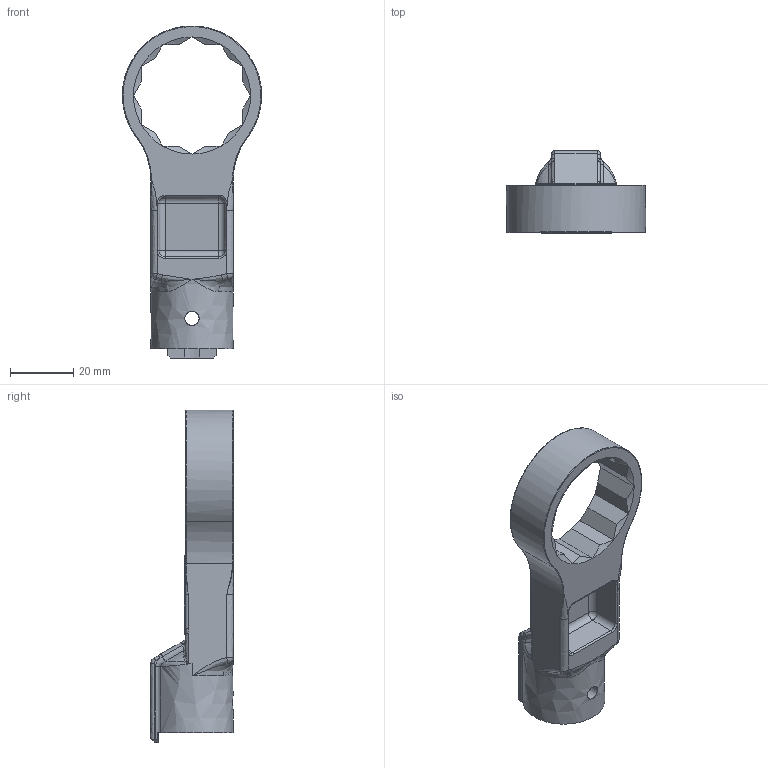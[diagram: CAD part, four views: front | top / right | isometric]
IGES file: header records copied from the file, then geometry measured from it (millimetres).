
Global section: file name: RH19DX32; native system: Autodesk Inventor 2016; preprocessor: unknown; author: q588; date: 20151110.164444; units: millimetre
Bounding box: 44 x 26 x 104.98 mm (x, y, z)
Volume: 25747.5 mm3; surface area: 12285.7 mm2
Topology: 1 solids, 1 shells, 200 faces, 502 edges, 283 vertices
Faces by surface type: bspline 200
